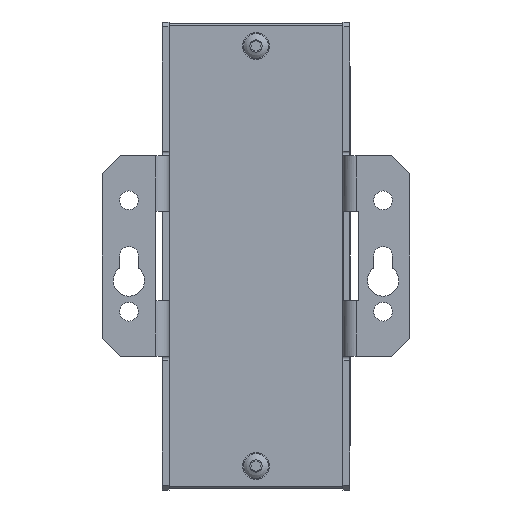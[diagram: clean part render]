
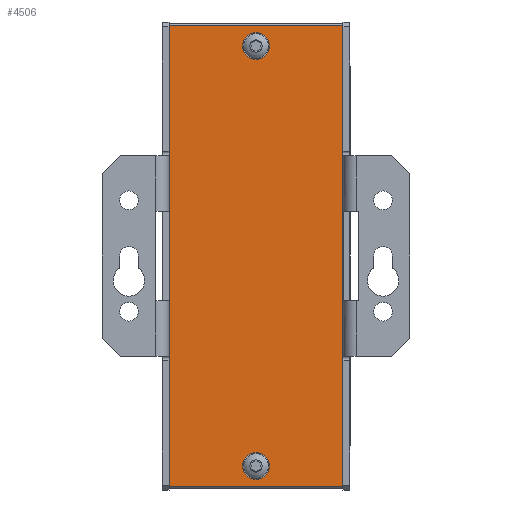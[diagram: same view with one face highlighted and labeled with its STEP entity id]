
A CAD part, front view. The second image highlights one B-rep face of the part: STEP entity #4506.
In plain terms, the highlighted planar face has unit normal (0, -1, 0).
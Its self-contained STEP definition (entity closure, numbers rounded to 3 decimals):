
#1467=CARTESIAN_POINT('',(3.,-9.45,47.1));
#1468=VERTEX_POINT('',#1467);
#1477=CARTESIAN_POINT('',(-0.,-9.45,44.1));
#1478=VERTEX_POINT('',#1477);
#1479=CARTESIAN_POINT('',(0.,-9.45,47.1));
#1480=DIRECTION('',(0.,-1.,0.));
#1481=DIRECTION('',(0.,0.,-1.));
#1482=AXIS2_PLACEMENT_3D('',#1479,#1480,#1481);
#1483=CIRCLE('',#1482,3.);
#1484=EDGE_CURVE('',#1468,#1478,#1483,.T.);
#1486=CARTESIAN_POINT('',(0.,-9.45,47.1));
#1487=DIRECTION('',(0.,-1.,0.));
#1488=DIRECTION('',(0.,0.,-1.));
#1489=AXIS2_PLACEMENT_3D('',#1486,#1487,#1488);
#1490=CIRCLE('',#1489,3.);
#1491=EDGE_CURVE('',#1478,#1468,#1490,.T.);
#1519=CARTESIAN_POINT('',(3.,-9.45,-47.1));
#1520=VERTEX_POINT('',#1519);
#1529=CARTESIAN_POINT('',(-0.,-9.45,-50.1));
#1530=VERTEX_POINT('',#1529);
#1531=CARTESIAN_POINT('',(0.,-9.45,-47.1));
#1532=DIRECTION('',(0.,-1.,0.));
#1533=DIRECTION('',(0.,0.,-1.));
#1534=AXIS2_PLACEMENT_3D('',#1531,#1532,#1533);
#1535=CIRCLE('',#1534,3.);
#1536=EDGE_CURVE('',#1520,#1530,#1535,.T.);
#1538=CARTESIAN_POINT('',(0.,-9.45,-47.1));
#1539=DIRECTION('',(0.,-1.,0.));
#1540=DIRECTION('',(0.,0.,-1.));
#1541=AXIS2_PLACEMENT_3D('',#1538,#1539,#1540);
#1542=CIRCLE('',#1541,3.);
#1543=EDGE_CURVE('',#1530,#1520,#1542,.T.);
#4247=CARTESIAN_POINT('',(19.5,-9.45,23.5));
#4248=VERTEX_POINT('',#4247);
#4255=CARTESIAN_POINT('',(19.5,-9.45,-23.5));
#4256=VERTEX_POINT('',#4255);
#4257=CARTESIAN_POINT('',(19.5,-9.45,-23.5));
#4258=DIRECTION('',(0.,0.,1.));
#4259=VECTOR('',#4258,47.);
#4260=LINE('',#4257,#4259);
#4261=EDGE_CURVE('',#4256,#4248,#4260,.T.);
#4377=CARTESIAN_POINT('',(-19.5,-9.45,-23.5));
#4378=VERTEX_POINT('',#4377);
#4385=CARTESIAN_POINT('',(-19.5,-9.45,23.5));
#4386=VERTEX_POINT('',#4385);
#4387=CARTESIAN_POINT('',(-19.5,-9.45,-23.5));
#4388=DIRECTION('',(0.,0.,1.));
#4389=VECTOR('',#4388,47.);
#4390=LINE('',#4387,#4389);
#4391=EDGE_CURVE('',#4378,#4386,#4390,.T.);
#4445=CARTESIAN_POINT('',(19.5,-9.45,-52.25));
#4446=DIRECTION('',(0.,-1.,0.));
#4447=DIRECTION('',(0.,0.,-1.));
#4448=AXIS2_PLACEMENT_3D('',#4445,#4446,#4447);
#4449=PLANE('',#4448);
#4450=ORIENTED_EDGE('',*,*,#1484,.F.);
#4451=ORIENTED_EDGE('',*,*,#1491,.F.);
#4452=EDGE_LOOP('',(#4450,#4451));
#4453=FACE_BOUND('',#4452,.T.);
#4454=ORIENTED_EDGE('',*,*,#1536,.F.);
#4455=ORIENTED_EDGE('',*,*,#1543,.F.);
#4456=EDGE_LOOP('',(#4454,#4455));
#4457=FACE_BOUND('',#4456,.T.);
#4458=CARTESIAN_POINT('',(19.5,-9.45,-51.617));
#4459=VERTEX_POINT('',#4458);
#4460=CARTESIAN_POINT('',(19.5,-9.45,-51.617));
#4461=DIRECTION('',(0.,0.,1.));
#4462=VECTOR('',#4461,28.117);
#4463=LINE('',#4460,#4462);
#4464=EDGE_CURVE('',#4459,#4256,#4463,.T.);
#4465=ORIENTED_EDGE('',*,*,#4464,.T.);
#4466=ORIENTED_EDGE('',*,*,#4261,.T.);
#4467=CARTESIAN_POINT('',(19.5,-9.45,51.617));
#4468=VERTEX_POINT('',#4467);
#4469=CARTESIAN_POINT('',(19.5,-9.45,51.617));
#4470=DIRECTION('',(0.,0.,-1.));
#4471=VECTOR('',#4470,28.117);
#4472=LINE('',#4469,#4471);
#4473=EDGE_CURVE('',#4468,#4248,#4472,.T.);
#4474=ORIENTED_EDGE('',*,*,#4473,.F.);
#4475=CARTESIAN_POINT('',(-19.5,-9.45,51.617));
#4476=VERTEX_POINT('',#4475);
#4477=CARTESIAN_POINT('',(19.5,-9.45,51.617));
#4478=DIRECTION('',(-1.,-0.,0.));
#4479=VECTOR('',#4478,39.);
#4480=LINE('',#4477,#4479);
#4481=EDGE_CURVE('',#4468,#4476,#4480,.T.);
#4482=ORIENTED_EDGE('',*,*,#4481,.T.);
#4483=CARTESIAN_POINT('',(-19.5,-9.45,51.617));
#4484=DIRECTION('',(0.,0.,-1.));
#4485=VECTOR('',#4484,28.117);
#4486=LINE('',#4483,#4485);
#4487=EDGE_CURVE('',#4476,#4386,#4486,.T.);
#4488=ORIENTED_EDGE('',*,*,#4487,.T.);
#4489=ORIENTED_EDGE('',*,*,#4391,.F.);
#4490=CARTESIAN_POINT('',(-19.5,-9.45,-51.617));
#4491=VERTEX_POINT('',#4490);
#4492=CARTESIAN_POINT('',(-19.5,-9.45,-51.617));
#4493=DIRECTION('',(0.,0.,1.));
#4494=VECTOR('',#4493,28.117);
#4495=LINE('',#4492,#4494);
#4496=EDGE_CURVE('',#4491,#4378,#4495,.T.);
#4497=ORIENTED_EDGE('',*,*,#4496,.F.);
#4498=CARTESIAN_POINT('',(-19.5,-9.45,-51.617));
#4499=DIRECTION('',(1.,-0.,-0.));
#4500=VECTOR('',#4499,39.);
#4501=LINE('',#4498,#4500);
#4502=EDGE_CURVE('',#4491,#4459,#4501,.T.);
#4503=ORIENTED_EDGE('',*,*,#4502,.T.);
#4504=EDGE_LOOP('',(#4465,#4466,#4474,#4482,#4488,#4489,#4497,#4503));
#4505=FACE_BOUND('',#4504,.T.);
#4506=ADVANCED_FACE('',(#4453,#4457,#4505),#4449,.T.);
